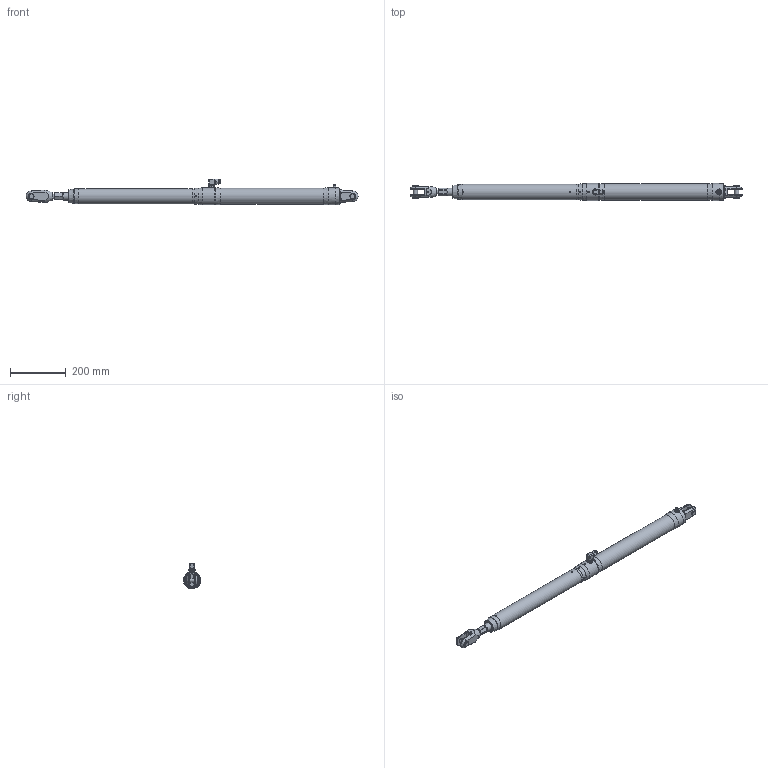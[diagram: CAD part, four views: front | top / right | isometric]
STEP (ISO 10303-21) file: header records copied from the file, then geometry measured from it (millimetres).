
FILE_DESCRIPTION(/* description */ (''),/* implementation_level */ '2;1');
FILE_NAME(/* name */ 'Q:\AA BRAND HYDRAULICS\HYDRAULICS FAMILY DIRECTORY\HYDRAULICS\CYLINDERS\MECHANICAL LOCK RAMS\ALUMINIUM - STAINLESS SINGLE ACTING (-0012 To -0150)\MSA-0017-S0375-NP-71\MSA-0017-S0375-NP-71 (Closed).stp',/* time_stamp */ '2018-04-25T15:24:12+01:00',/* author */ ('Lorena'),/* organization */ (''),/* preprocessor_version */ 'ST-DEVELOPER v17',/* originating_system */ 'Autodesk Inventor 2018',/* authorisation */ '');
FILE_SCHEMA (('AUTOMOTIVE_DESIGN { 1 0 10303 214 3 1 1 }'));
Length unit declared in the file: millimetre
Products named in the file (1): MSA-0017-S0375-NP-71 (Closed)
Bounding box: 1189.15 x 61.4 x 92.2 mm (x, y, z)
Volume: 2681721.8 mm3; surface area: 221528.6 mm2
Topology: 2 solids, 4 shells, 508 faces, 1332 edges, 867 vertices
Faces by surface type: plane 285, cone 129, cylinder 79, torus 6, bspline 5, sphere 4
Full cylindrical faces by diameter (mm): 4 x5, 4.4 x1, 5 x5, 5.1 x1, 7 x1, 9 x1, 10 x2, 11.11 x1, 11.157 x1, 11.5 x1, 11.8 x1, 12 x3, 12.157 x1, 13 x1, 13.157 x2, 14.5 x2, 15.88 x2, 17.5 x1, 18.3 x3, 19.85 x2, 27 x2, 28 x2, 31 x1, 55 x1, 58.4 x1, 61.4 x4
Entity records: 17347 total; most frequent: CARTESIAN_POINT 4485, ORIENTED_EDGE 2644, DIRECTION 2555, EDGE_CURVE 1322, AXIS2_PLACEMENT_3D 984, VERTEX_POINT 867, LINE 587, VECTOR 587
